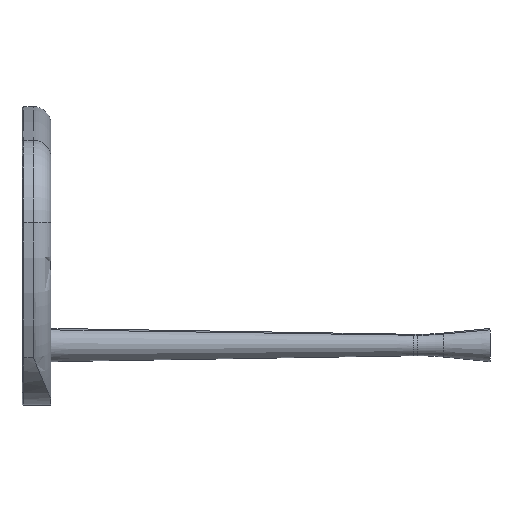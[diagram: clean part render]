
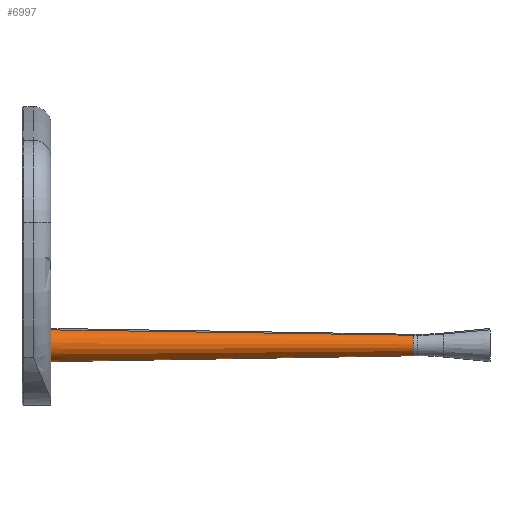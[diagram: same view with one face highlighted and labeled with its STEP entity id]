
A CAD part, left-side view. The second image highlights one B-rep face of the part: STEP entity #6997.
In plain terms, the highlighted conical face has half-angle 0.933 degrees and reference radius 12.283 mm.
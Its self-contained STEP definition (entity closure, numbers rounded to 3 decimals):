
#273 = DIRECTION ( 'NONE',  ( 0., -1., 0. ) ) ;
#498 = VERTEX_POINT ( 'NONE', #13029 ) ;
#581 = LINE ( 'NONE', #4635, #1361 ) ;
#588 = DIRECTION ( 'NONE',  ( 0., 0., -1. ) ) ;
#1199 = EDGE_CURVE ( 'NONE', #9777, #3305, #10317, .T. ) ;
#1361 = VECTOR ( 'NONE', #6666, 1000. ) ;
#1563 = VECTOR ( 'NONE', #5108, 1000. ) ;
#1920 = EDGE_LOOP ( 'NONE', ( #12824, #15842, #9753, #2279 ) ) ;
#2279 = ORIENTED_EDGE ( 'NONE', *, *, #17730, .T. ) ;
#3057 = DIRECTION ( 'NONE',  ( 0., -1., 0. ) ) ;
#3305 = VERTEX_POINT ( 'NONE', #6964 ) ;
#4223 = AXIS2_PLACEMENT_3D ( 'NONE', #15907, #273, #588 ) ;
#4635 = CARTESIAN_POINT ( 'NONE',  ( 0., 87.409, -12.283 ) ) ;
#4974 = CONICAL_SURFACE ( 'NONE', #15709, 12.283, 0.016 ) ;
#5004 = EDGE_CURVE ( 'NONE', #17079, #498, #581, .T. ) ;
#5108 = DIRECTION ( 'NONE',  ( 0., 1., 0.016 ) ) ;
#6093 = CIRCLE ( 'NONE', #4223, 12.283 ) ;
#6155 = EDGE_CURVE ( 'NONE', #9777, #17079, #6093, .T. ) ;
#6522 = DIRECTION ( 'NONE',  ( 0., 0., -1. ) ) ;
#6563 = CARTESIAN_POINT ( 'NONE',  ( 0., 87.409, 12.283 ) ) ;
#6666 = DIRECTION ( 'NONE',  ( 0., 1., -0.016 ) ) ;
#6964 = CARTESIAN_POINT ( 'NONE',  ( 0., 500., 19. ) ) ;
#6997 = ADVANCED_FACE ( 'NONE', ( #7959 ), #4974, .T. ) ;
#7101 = CARTESIAN_POINT ( 'NONE',  ( 0., 87.409, 0. ) ) ;
#7113 = DIRECTION ( 'NONE',  ( 0., 0., 1. ) ) ;
#7305 = CARTESIAN_POINT ( 'NONE',  ( 0., 87.409, -12.283 ) ) ;
#7959 = FACE_OUTER_BOUND ( 'NONE', #1920, .T. ) ;
#9753 = ORIENTED_EDGE ( 'NONE', *, *, #1199, .T. ) ;
#9777 = VERTEX_POINT ( 'NONE', #17815 ) ;
#10277 = CARTESIAN_POINT ( 'NONE',  ( 0., 500., 0. ) ) ;
#10317 = LINE ( 'NONE', #6563, #1563 ) ;
#12824 = ORIENTED_EDGE ( 'NONE', *, *, #5004, .F. ) ;
#13029 = CARTESIAN_POINT ( 'NONE',  ( 0., 500., -19. ) ) ;
#14038 = DIRECTION ( 'NONE',  ( 0., 1., 0. ) ) ;
#14554 = AXIS2_PLACEMENT_3D ( 'NONE', #10277, #3057, #6522 ) ;
#14876 = CIRCLE ( 'NONE', #14554, 19. ) ;
#15709 = AXIS2_PLACEMENT_3D ( 'NONE', #7101, #14038, #7113 ) ;
#15842 = ORIENTED_EDGE ( 'NONE', *, *, #6155, .F. ) ;
#15907 = CARTESIAN_POINT ( 'NONE',  ( 0., 87.409, 0. ) ) ;
#17079 = VERTEX_POINT ( 'NONE', #7305 ) ;
#17730 = EDGE_CURVE ( 'NONE', #3305, #498, #14876, .T. ) ;
#17815 = CARTESIAN_POINT ( 'NONE',  ( 0., 87.409, 12.283 ) ) ;
